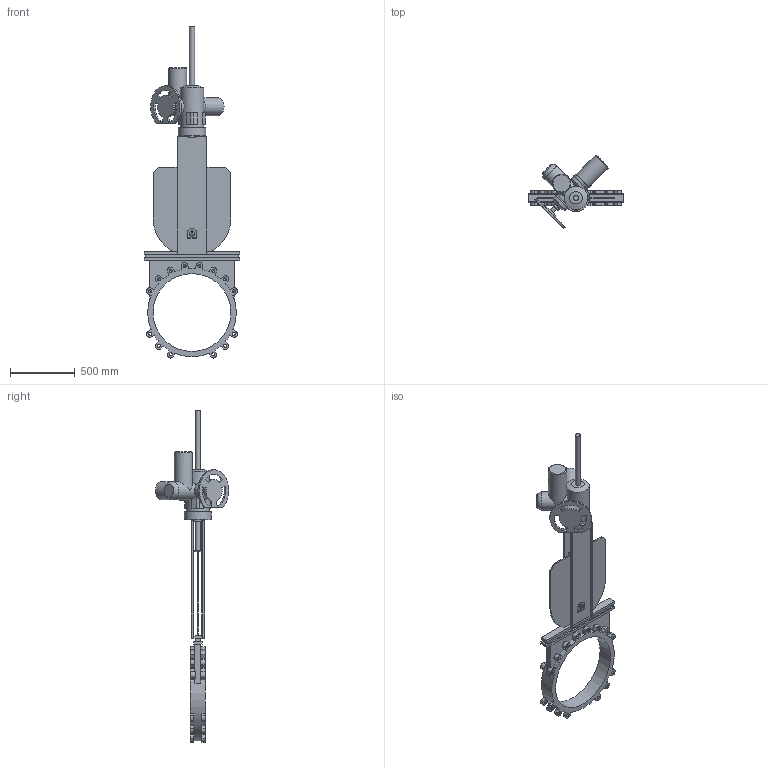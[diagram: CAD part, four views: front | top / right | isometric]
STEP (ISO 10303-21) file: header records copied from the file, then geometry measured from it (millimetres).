
FILE_DESCRIPTION(('STEP AP203'), '1');
FILE_NAME('K21GVA_DN600+MT903.A 45', '', ('UNSPECIFIED'), ('UNSPECIFIED'), 'ASCON STEP Converter 1.6', 'ASCON Math Kernel', '');
FILE_SCHEMA(('CONFIG_CONTROL_DESIGN'));
Length unit declared in the file: millimetre
Bounding box: 740 x 565.84 x 2560.42 mm (x, y, z)
Volume: 46271538.9 mm3; surface area: 3805446.5 mm2
Topology: 1 solids, 2 shells, 408 faces, 1120 edges, 736 vertices
Faces by surface type: plane 198, cylinder 179, cone 30, torus 1
Full cylindrical faces by diameter (mm): 14 x4, 17.294 x4, 22 x4, 23.752 x28, 32 x1, 40 x2, 60 x1, 80 x1, 100 x1, 130 x1, 140 x4, 147 x1, 151 x1, 180 x1, 210 x1, 600 x1
Entity records: 16697 total; most frequent: CARTESIAN_POINT 3100, DIRECTION 2227, ORIENTED_EDGE 2028, EDGE_CURVE 1014, AXIS2_PLACEMENT_3D 834, VERTEX_POINT 716, LINE 559, VECTOR 559
